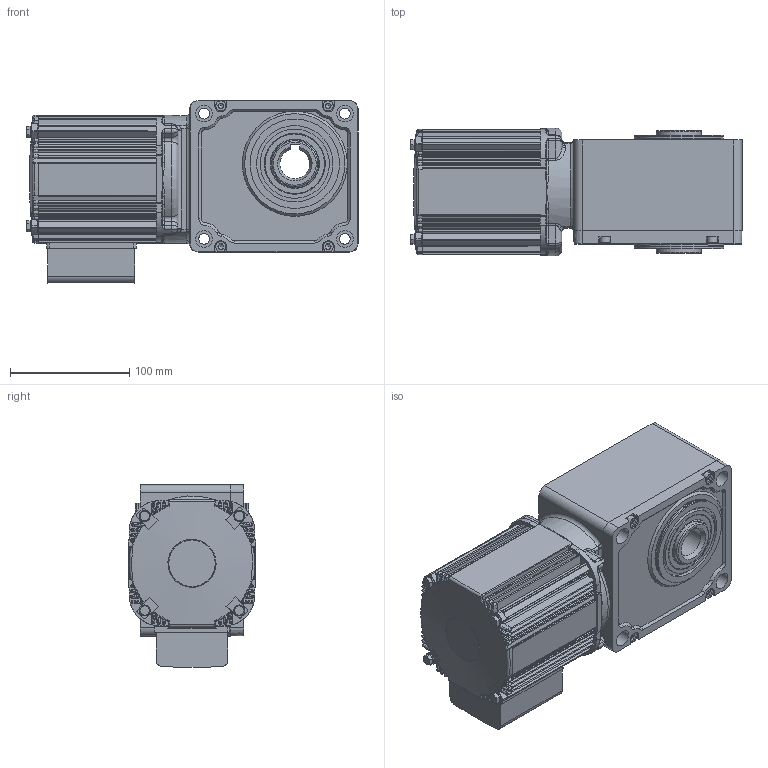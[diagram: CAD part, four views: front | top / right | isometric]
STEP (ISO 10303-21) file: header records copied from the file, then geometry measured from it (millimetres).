
FILE_DESCRIPTION( ( 'Unknown' ), '1' );
FILE_NAME( 'W:/gm/3D-WEB/GM-SHY/完成品/パーツ/完成品/三相/shyfrh_01_5-240.stp', 'Unknown', ( 'Unknown' ), ( 'Unknown' ), 'PSStep 11.0', 'Unknown', ' ' );
FILE_SCHEMA( ( 'AUTOMOTIVE_DESIGN { 1 0 10303 214 1 1 1 1 }' ) );
Length unit declared in the file: millimetre
Products named in the file (2): P265320_衛偯枆參(0.1,0.2kW 63Fr)
Bounding box: 278.3 x 107 x 153.38 mm (x, y, z)
Volume: 2564033.8 mm3; surface area: 321128.2 mm2
Topology: 3 solids, 22 shells, 1507 faces, 3790 edges, 2332 vertices
Faces by surface type: plane 576, cylinder 435, torus 204, bspline 147, cone 136, sphere 9
Full cylindrical faces by diameter (mm): 3.3 x4, 4.134 x8, 4.5 x4, 4.8 x4, 5 x8, 5.5 x8, 6 x2, 8.5 x4, 9 x4, 12 x2, 14 x8, 15 x1, 16 x1, 26 x2, 32 x2, 38 x3, 38.1 x2, 40 x2, 41.34 x2, 46 x2, 50 x3, 58 x2, 64 x2, 68 x1, 74.7 x2, 75 x4, 100.5 x2
Entity records: 81340 total; most frequent: CARTESIAN_POINT 34351, DIRECTION 7593, ORIENTED_EDGE 7096, EDGE_CURVE 3548, AXIS2_PLACEMENT_3D 3115, VERTEX_POINT 2280, EDGE_LOOP 1712, CIRCLE 1697
